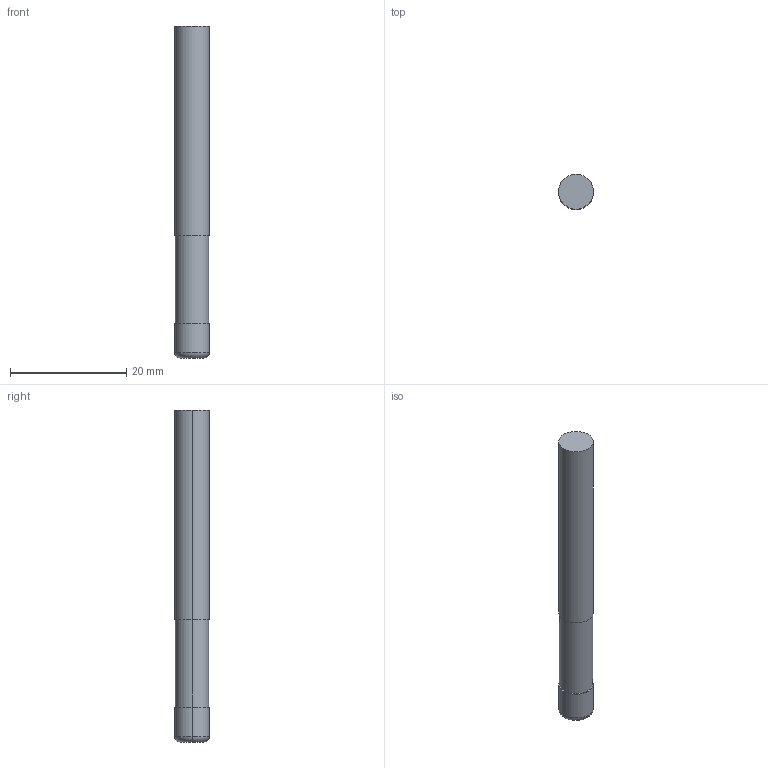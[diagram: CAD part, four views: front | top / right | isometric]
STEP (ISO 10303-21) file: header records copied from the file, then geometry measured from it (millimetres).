
FILE_DESCRIPTION(('STEP AP214'),'1');
FILE_NAME('cctmp_BE2AA0C6-47EC-42CB-A0C1-E5188895BBE7_2020_10_01_07_14_40_0790..stp','2020-10-01T05:14:40',('Meusburger Georg GmbH & Co KG'),('CADClick - www.CADClick.com'),'Spatial InterOp 3D',' ','unknown authorization');
FILE_SCHEMA(('AUTOMOTIVE_DESIGN { 1 0 10303 214 1 1 1 1 }'));
Length unit declared in the file: millimetre
Products named in the file (1): WZF17418_6_1
Bounding box: 6 x 6 x 57 mm (x, y, z)
Volume: 1566.5 mm3; surface area: 1113.8 mm2
Topology: 1 solids, 1 shells, 12 faces, 22 edges, 14 vertices
Faces by surface type: cylinder 6, plane 4, torus 2
Entity records: 426 total; most frequent: DIRECTION 64, CARTESIAN_POINT 49, ORIENTED_EDGE 44, AXIS2_PLACEMENT_3D 29, EDGE_CURVE 22, CIRCLE 16, EDGE_LOOP 14, VERTEX_POINT 14
